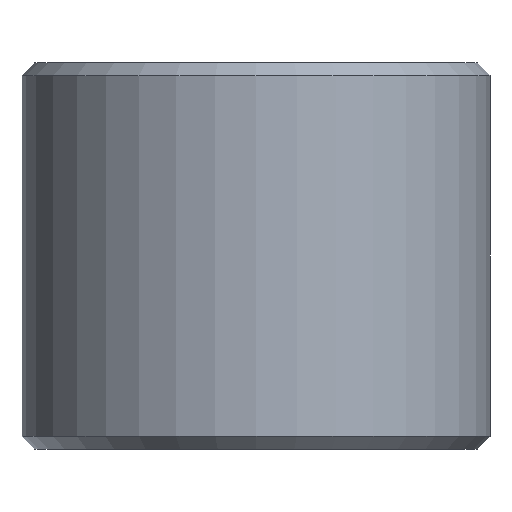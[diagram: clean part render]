
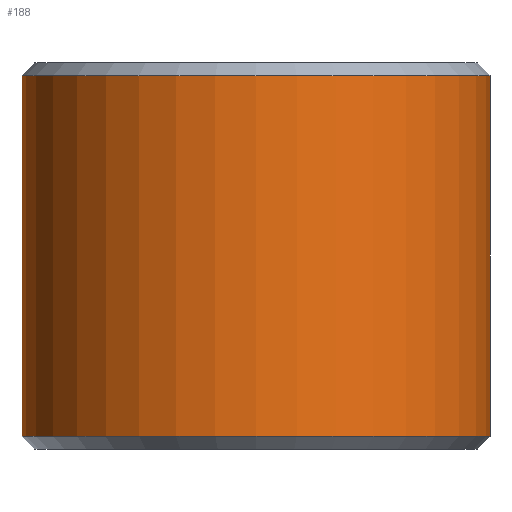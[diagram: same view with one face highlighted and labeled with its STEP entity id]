
A CAD part, front view. The second image highlights one B-rep face of the part: STEP entity #188.
In plain terms, the highlighted cylindrical face has radius 40 mm (diameter 80 mm), a partial arc.
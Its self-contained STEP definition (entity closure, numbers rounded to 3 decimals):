
#4 = VECTOR ( 'NONE', #61, 1000. ) ;
#13 = EDGE_CURVE ( 'NONE', #244, #389, #364, .T. ) ;
#27 = LINE ( 'NONE', #263, #4 ) ;
#30 = DIRECTION ( 'NONE',  ( 1., 0., 0. ) ) ;
#59 = CARTESIAN_POINT ( 'NONE',  ( 0., 0., 30.8 ) ) ;
#60 = EDGE_CURVE ( 'NONE', #244, #124, #381, .T. ) ;
#61 = DIRECTION ( 'NONE',  ( 0., 0., -1. ) ) ;
#70 = CARTESIAN_POINT ( 'NONE',  ( 40., 0., -30.8 ) ) ;
#86 = CARTESIAN_POINT ( 'NONE',  ( 40., 0., 33. ) ) ;
#87 = ORIENTED_EDGE ( 'NONE', *, *, #60, .T. ) ;
#89 = ORIENTED_EDGE ( 'NONE', *, *, #184, .T. ) ;
#124 = VERTEX_POINT ( 'NONE', #160 ) ;
#127 = DIRECTION ( 'NONE',  ( 0., 0., -1. ) ) ;
#131 = CARTESIAN_POINT ( 'NONE',  ( 40., 0., 30.8 ) ) ;
#132 = CYLINDRICAL_SURFACE ( 'NONE', #382, 40. ) ;
#157 = ORIENTED_EDGE ( 'NONE', *, *, #256, .T. ) ;
#160 = CARTESIAN_POINT ( 'NONE',  ( -40., 0., 30.8 ) ) ;
#184 = EDGE_CURVE ( 'NONE', #124, #435, #27, .T. ) ;
#188 = ADVANCED_FACE ( 'NONE', ( #196 ), #132, .T. ) ;
#196 = FACE_OUTER_BOUND ( 'NONE', #326, .T. ) ;
#216 = DIRECTION ( 'NONE',  ( 0., 0., -1. ) ) ;
#234 = CARTESIAN_POINT ( 'NONE',  ( 0., 0., -30.8 ) ) ;
#235 = AXIS2_PLACEMENT_3D ( 'NONE', #59, #127, #30 ) ;
#244 = VERTEX_POINT ( 'NONE', #131 ) ;
#256 = EDGE_CURVE ( 'NONE', #435, #389, #305, .T. ) ;
#259 = DIRECTION ( 'NONE',  ( 0., 0., 1. ) ) ;
#263 = CARTESIAN_POINT ( 'NONE',  ( -40., 0., 33. ) ) ;
#265 = DIRECTION ( 'NONE',  ( 0., 0., -1. ) ) ;
#270 = CARTESIAN_POINT ( 'NONE',  ( -40., 0., -30.8 ) ) ;
#287 = ORIENTED_EDGE ( 'NONE', *, *, #13, .F. ) ;
#304 = VECTOR ( 'NONE', #216, 1000. ) ;
#305 = CIRCLE ( 'NONE', #446, 40. ) ;
#326 = EDGE_LOOP ( 'NONE', ( #287, #87, #89, #157 ) ) ;
#364 = LINE ( 'NONE', #86, #304 ) ;
#375 = DIRECTION ( 'NONE',  ( 1., 0., 0. ) ) ;
#381 = CIRCLE ( 'NONE', #235, 40. ) ;
#382 = AXIS2_PLACEMENT_3D ( 'NONE', #405, #265, #443 ) ;
#389 = VERTEX_POINT ( 'NONE', #70 ) ;
#405 = CARTESIAN_POINT ( 'NONE',  ( 0., 0., 33. ) ) ;
#435 = VERTEX_POINT ( 'NONE', #270 ) ;
#443 = DIRECTION ( 'NONE',  ( -1., 0., 0. ) ) ;
#446 = AXIS2_PLACEMENT_3D ( 'NONE', #234, #259, #375 ) ;
